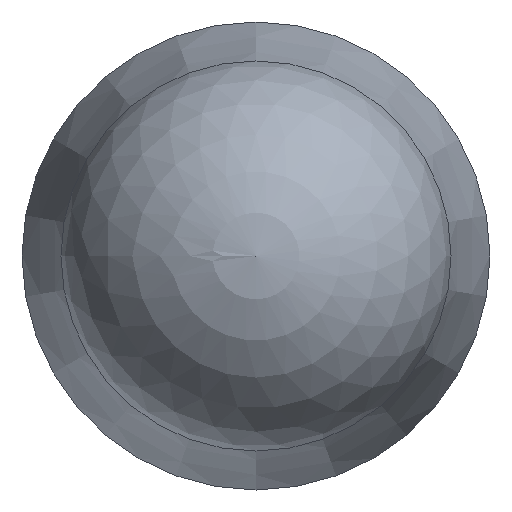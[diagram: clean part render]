
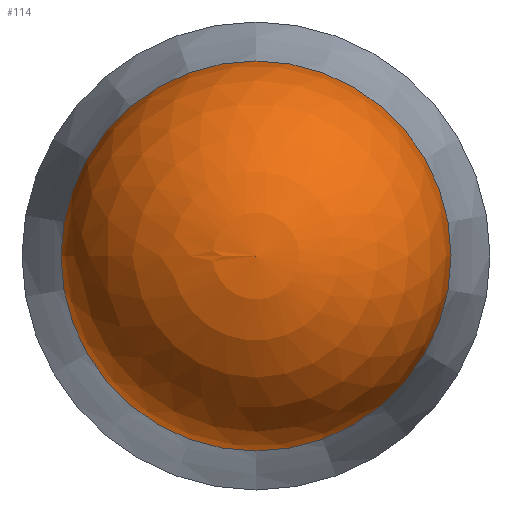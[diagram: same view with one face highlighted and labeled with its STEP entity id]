
A CAD part, left-side view. The second image highlights one B-rep face of the part: STEP entity #114.
In plain terms, the highlighted spherical face has radius 2.5 mm.
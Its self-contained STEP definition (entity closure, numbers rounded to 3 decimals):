
#112=SPHERICAL_SURFACE('',#182,2.5);
#114=ADVANCED_FACE('',(#126),#112,.T.);
#126=FACE_OUTER_BOUND('',#130,.T.);
#130=EDGE_LOOP('',(#144));
#144=ORIENTED_EDGE('',*,*,#165,.F.);
#158=VERTEX_POINT('',#234);
#165=EDGE_CURVE('',#158,#158,#172,.T.);
#172=CIRCLE('',#181,2.5);
#181=AXIS2_PLACEMENT_3D('',#233,#201,#202);
#182=AXIS2_PLACEMENT_3D('',#235,#203,#204);
#201=DIRECTION('',(1.,0.,0.));
#202=DIRECTION('',(0.,0.,-1.));
#203=DIRECTION('',(1.,0.,0.));
#204=DIRECTION('',(0.,1.,0.));
#233=CARTESIAN_POINT('',(7916.544,6117.77,0.));
#234=CARTESIAN_POINT('',(7916.544,6117.77,-2.5));
#235=CARTESIAN_POINT('',(7916.544,6117.77,0.));
